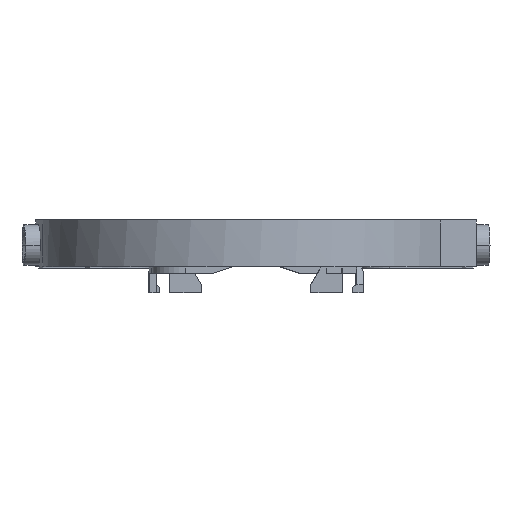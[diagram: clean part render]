
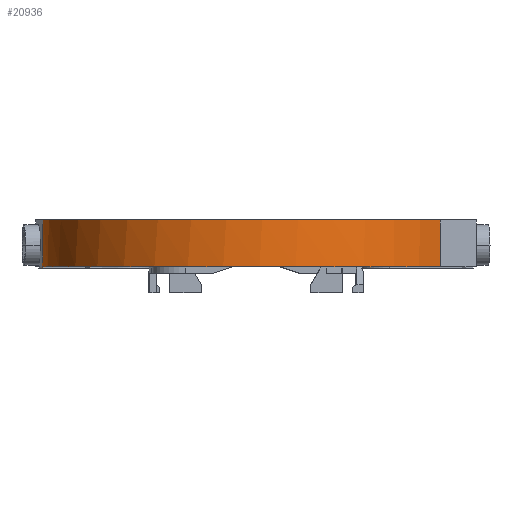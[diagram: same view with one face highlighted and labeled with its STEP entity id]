
A CAD part, front view. The second image highlights one B-rep face of the part: STEP entity #20936.
In plain terms, the highlighted cylindrical face has radius 20 mm (diameter 40 mm), a partial arc.
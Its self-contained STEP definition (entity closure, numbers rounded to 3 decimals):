
#14161=CARTESIAN_POINT(' ',(-19.921,1.779,4.4));
#14162=VERTEX_POINT(' ',#14161);
#14176=CARTESIAN_POINT(' ',(0.,0.,4.4));
#14181=DIRECTION(' ',(0.,0.,1.));
#14186=DIRECTION(' ',(-0.996,0.089,0.));
#14191=AXIS2_PLACEMENT_3D(' ',#14176,#14181,#14186);
#14196=CIRCLE('',#14191,20.);
#14201=CARTESIAN_POINT(' ',(17.264,-10.097,4.4));
#14202=VERTEX_POINT(' ',#14201);
#14206=EDGE_CURVE(' ',#14162,#14202,#14196,.T.);
#20306=CARTESIAN_POINT(' ',(-19.921,1.779,-0.1));
#20307=VERTEX_POINT(' ',#20306);
#20321=CARTESIAN_POINT(' ',(-19.921,1.779,4.4));
#20326=DIRECTION(' ',(0.,0.,-1.));
#20331=VECTOR(' ',#20326,1.);
#20336=LINE('',#20321,#20331);
#20341=EDGE_CURVE(' ',#14162,#20307,#20336,.T.);
#20746=CARTESIAN_POINT(' ',(0.,0.,22.5));
#20751=DIRECTION(' ',(0.,0.,1.));
#20756=DIRECTION(' ',(-0.996,0.089,0.));
#20761=AXIS2_PLACEMENT_3D(' ',#20746,#20751,#20756);
#20766=CYLINDRICAL_SURFACE(' ',#20761,20.);
#20771=CARTESIAN_POINT(' ',(17.264,-10.097,0.));
#20776=DIRECTION(' ',(0.,0.,1.));
#20781=VECTOR(' ',#20776,1.);
#20786=LINE('',#20771,#20781);
#20791=CARTESIAN_POINT(' ',(17.264,-10.097,0.));
#20792=VERTEX_POINT(' ',#20791);
#20796=EDGE_CURVE(' ',#20792,#14202,#20786,.T.);
#20801=ORIENTED_EDGE(' ',*,*,#20796,.T.);
#20806=ORIENTED_EDGE(' ',*,*,#14206,.F.);
#20811=ORIENTED_EDGE(' ',*,*,#20341,.T.);
#20816=CARTESIAN_POINT(' ',(0.,0.,-0.1));
#20821=DIRECTION(' ',(0.,0.,-1.));
#20826=DIRECTION(' ',(-0.999,-0.05,0.));
#20831=AXIS2_PLACEMENT_3D(' ',#20816,#20821,#20826);
#20836=CIRCLE('',#20831,20.);
#20841=CARTESIAN_POINT(' ',(-19.975,-0.999,-0.1));
#20842=VERTEX_POINT(' ',#20841);
#20846=EDGE_CURVE(' ',#20842,#20307,#20836,.T.);
#20851=ORIENTED_EDGE(' ',*,*,#20846,.F.);
#20856=CARTESIAN_POINT(' ',(-19.975,-0.999,0.));
#20861=DIRECTION(' ',(0.,0.,-1.));
#20866=VECTOR(' ',#20861,1.);
#20871=LINE('',#20856,#20866);
#20876=CARTESIAN_POINT(' ',(-19.975,-0.999,0.));
#20877=VERTEX_POINT(' ',#20876);
#20881=EDGE_CURVE(' ',#20877,#20842,#20871,.T.);
#20886=ORIENTED_EDGE(' ',*,*,#20881,.F.);
#20891=CARTESIAN_POINT(' ',(0.,0.,0.));
#20896=DIRECTION(' ',(0.,0.,1.));
#20901=DIRECTION(' ',(-0.999,-0.05,0.));
#20906=AXIS2_PLACEMENT_3D(' ',#20891,#20896,#20901);
#20911=CIRCLE('',#20906,20.);
#20916=EDGE_CURVE(' ',#20877,#20792,#20911,.T.);
#20921=ORIENTED_EDGE(' ',*,*,#20916,.T.);
#20926=EDGE_LOOP(' ',(#20801,#20806,#20811,#20851,#20886,#20921));
#20931=FACE_OUTER_BOUND(' ',#20926,.T.);
#20936=ADVANCED_FACE('',(#20931),#20766,.T.);
